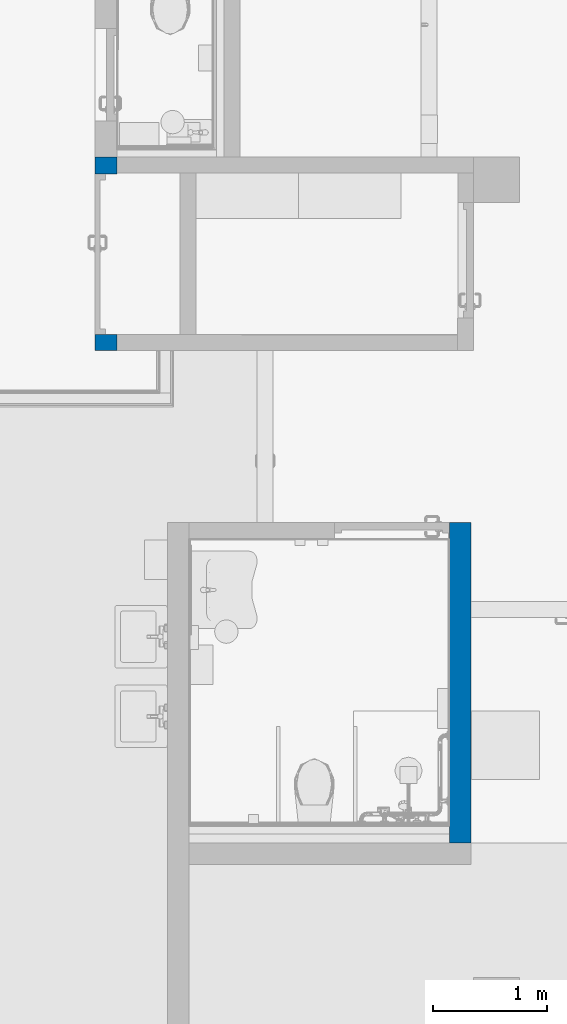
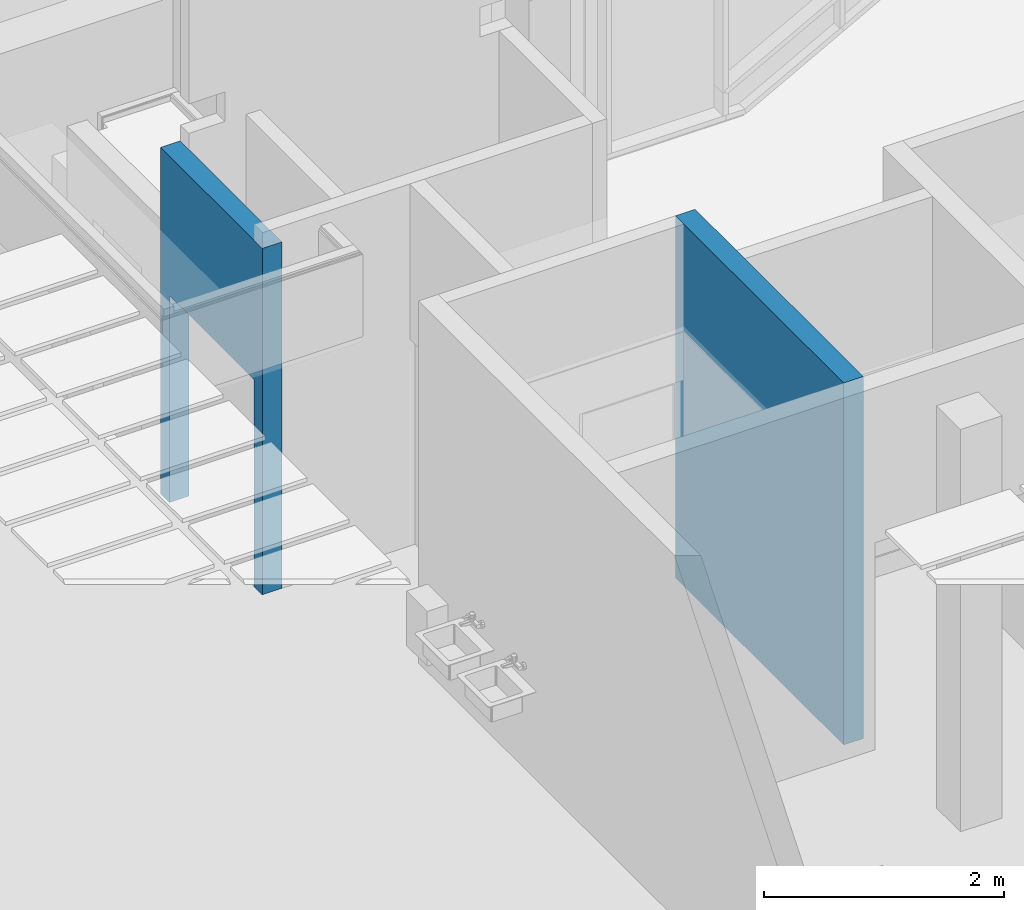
# One storey, part 123 of 301: 2 walls, 1 opening.
"""IFC2X3 building model written with IfcOpenShell, lengths in millimetres."""

from ifc_helpers import new_model, entity, si_unit, converted_unit, derived_unit, money_unit, direction, frame, origin_with_axes, place, context, subcontext, project, spatial, faceted_brep, material, type_object, element, save


model = new_model("IFC2X3")

# Units and contexts
model_context = context("Model", 3, precision=0.01, world=origin_with_axes(), true_north=direction((0.0, 1.0)))
body_context = subcontext(model_context, "Body", "Model", "MODEL_VIEW")
ifc_project = project(units=[si_unit("LENGTHUNIT", "METRE", prefix="MILLI"), si_unit("AREAUNIT", "SQUARE_METRE"), si_unit("VOLUMEUNIT", "CUBIC_METRE"), converted_unit("PLANEANGLEUNIT", "DEGREE", entity("IfcPlaneAngleMeasure", 0.0174532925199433), si_unit("PLANEANGLEUNIT", "RADIAN"), dimensions=[0, 0, 0, 0, 0, 0, 0]), money_unit("EUR"), converted_unit("TIMEUNIT", "Year", entity("IfcTimeMeasure", 31557600.0), si_unit("TIMEUNIT", "SECOND"), dimensions=[0, 0, 1, 0, 0, 0, 0]), si_unit("MASSUNIT", "GRAM", prefix="KILO"), si_unit("THERMODYNAMICTEMPERATUREUNIT", "DEGREE_CELSIUS"), si_unit("LUMINOUSINTENSITYUNIT", "LUMEN"), si_unit("ENERGYUNIT", "JOULE", prefix="MEGA"), derived_unit("THERMALCONDUCTANCEUNIT", [(si_unit("POWERUNIT", "WATT"), 1), (si_unit("LENGTHUNIT", "METRE"), -1), (si_unit("THERMODYNAMICTEMPERATUREUNIT", "KELVIN"), -1)]), derived_unit("SPECIFICHEATCAPACITYUNIT", [(si_unit("ENERGYUNIT", "JOULE"), 1), (si_unit("MASSUNIT", "GRAM", prefix="KILO"), -1), (si_unit("THERMODYNAMICTEMPERATUREUNIT", "KELVIN"), -1)]), derived_unit("MASSDENSITYUNIT", [(si_unit("MASSUNIT", "GRAM", prefix="KILO"), 1), (si_unit("VOLUMEUNIT", "CUBIC_METRE"), -1)])], contexts=[model_context])

# Site, building, storey
site_placement = place(None, frame((0.0, 0.0, 8650.0), z_axis=(0.0, 0.0, 1.0), x_axis=(1.0, 0.0, 0.0)))
site = spatial("IfcSite", under=ifc_project, at=site_placement, Name="43301:001:0844", CompositionType="ELEMENT")
building_placement = place(site_placement, origin_with_axes())
building = spatial("IfcBuilding", under=site, at=building_placement, Name="Kuressaare Ametikooli tuulikute mehaanikute õppekorpus", CompositionType="ELEMENT")
storey_placement = place(building_placement, origin_with_axes())
storey = spatial("IfcBuildingStorey", under=building, at=storey_placement, Name="1.korrus", CompositionType="ELEMENT", Elevation=0.0)

# Wall
ifc_material = material(Name="Betoonplokk")
wall_type = type_object("IfcWallType", Name="SS-1.1 190", PredefinedType="NOTDEFINED")
wall_1_placement = place(storey_placement, frame((103645.5119381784, 20624.79366260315, 0.0), z_axis=(0.0, 0.0, 1.0), x_axis=(-1.339727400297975e-07, -0.999999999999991, 0.0)))
element("IfcWall", 1, at=wall_1_placement, inside=storey, type_object=wall_type, material=ifc_material, Name="Sisesein", context=body_context, shape_type="Brep", body=[
    faceted_brep([(-139.999990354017, -189.9999999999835, 0.0), (-139.999990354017, -189.9999999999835, 3690.0), (-140.0000158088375, 0.0, 3690.0), (-140.0000158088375, 0.0, 0.0), (2670.000175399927, -189.9999999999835, 0.0), (2670.000175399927, -189.9999999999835, 3690.0), (2669.99972795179, 0.0, 3690.0), (2669.99972795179, 0.0, 0.0)], [[[0, 1, 2, 3]], [[4, 5, 1, 0]], [[5, 6, 2, 1]], [[3, 2, 6, 7]], [[4, 0, 3, 7]], [[7, 6, 5, 4]]]),
])

# Wall, opening
wall_2_placement = place(storey_placement, frame((100345.475774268, 23974.06964326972, 0.0), z_axis=(0.0, 0.0, 1.0), x_axis=(-0.0001147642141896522, -0.9999999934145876, 0.0)))
wall_2 = element("IfcWall", 2, at=wall_2_placement, inside=storey, type_object=wall_type, material=ifc_material, Name="Sisesein", context=body_context, shape_type="Brep", body=[
    faceted_brep([(1558.907967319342, 189.9999999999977, 0.0), (1558.907967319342, 189.9999999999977, 2110.0), (148.9079673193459, 189.9999999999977, 2110.0), (148.9079673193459, 189.9999999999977, 0.0), (0.0, 189.9999999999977, 0.0), (0.0, 189.9999999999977, 3530.0), (1698.907967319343, 189.9999999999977, 3530.0), (1698.907967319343, 189.9999999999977, 0.0), (1558.907967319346, 0.0, 0.0), (1558.907967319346, 0.0, 2110.0), (148.9079673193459, 0.0, 2110.0), (148.9079673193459, 0.0, 0.0), (0.0, 0.0, 0.0), (0.0, 0.0, 3530.0), (1698.907967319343, 0.0, 3530.0), (1698.907967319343, 0.0, 0.0)], [[[0, 1, 2, 3, 4, 5, 6, 7]], [[1, 0, 8, 9]], [[2, 1, 9, 10]], [[3, 2, 10, 11]], [[3, 11, 12, 4]], [[13, 5, 4, 12]], [[6, 5, 13, 14]], [[14, 15, 7, 6]], [[8, 0, 7, 15]], [[9, 8, 15, 14, 13, 12, 11, 10]]]),
])
opening_placement = place(wall_2_placement, frame((853.9079673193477, 0.0, 0.0), z_axis=(0.0, 0.0, 1.0), x_axis=(1.0, 0.0, 0.0)))
element("IfcOpeningElement", 3, at=opening_placement, cuts=wall_2, Name="TU7+7,EI30", context=body_context, shape_type="Brep", body=[
    faceted_brep([(704.9999999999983, 191.1949738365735, 2110.0), (704.9999999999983, 191.1949738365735, 0.0), (-705.0000000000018, 191.1949738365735, 0.0), (-705.0000000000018, 191.1949738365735, 2110.0), (704.9999999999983, -1.194973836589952, 2110.0), (704.9999999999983, -1.194973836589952, 0.0), (-705.0000000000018, -1.194973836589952, 0.0), (-705.0000000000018, -1.194973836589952, 2110.0)], [[[0, 1, 2, 3]], [[4, 5, 1, 0]], [[5, 6, 2, 1]], [[6, 7, 3, 2]], [[7, 4, 0, 3]], [[6, 5, 4, 7]]]),
])

save(model, "model.ifc")
